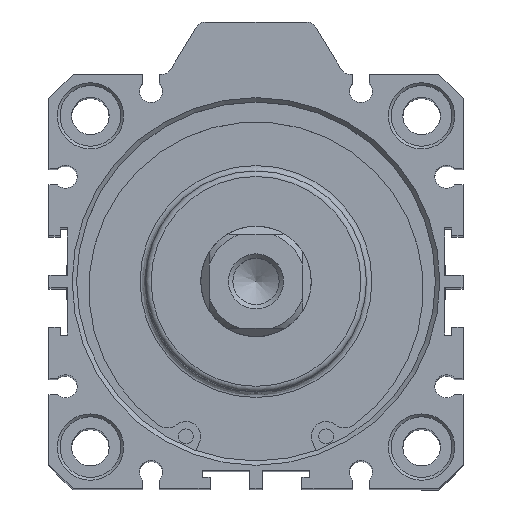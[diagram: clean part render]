
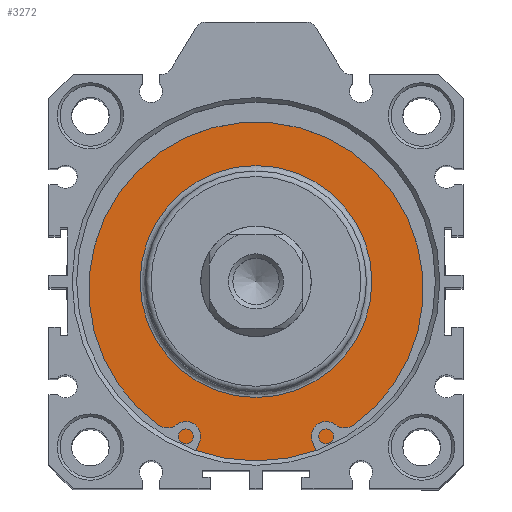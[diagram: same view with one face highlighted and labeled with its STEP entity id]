
A CAD part, top view. The second image highlights one B-rep face of the part: STEP entity #3272.
In plain terms, the highlighted planar face has unit normal (0, 0, 1).
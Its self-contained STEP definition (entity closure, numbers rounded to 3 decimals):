
#3221=CARTESIAN_POINT('',(0.359,19.684,152.3));
#3222=VERTEX_POINT('',#3221);
#3223=CARTESIAN_POINT('',(0.359,-1.316,152.3));
#3224=DIRECTION('',(0.0,0.0,1.0));
#3225=DIRECTION('',(0.0,-1.0,0.0));
#3226=AXIS2_PLACEMENT_3D('',#3223,#3224,#3225);
#3227=CIRCLE('',#3226,21.);
#3228=EDGE_CURVE('',#3222,#3222,#3227,.T.);
#3253=CARTESIAN_POINT('',(0.359,24.934,152.3));
#3254=DIRECTION('',(0.0,0.0,1.0));
#3255=DIRECTION('',(1.0,0.0,0.0));
#3256=AXIS2_PLACEMENT_3D('',#3253,#3254,#3255);
#3257=PLANE('',#3256);
#3258=CARTESIAN_POINT('',(0.359,31.184,152.3));
#3259=VERTEX_POINT('',#3258);
#3260=CARTESIAN_POINT('',(0.359,-1.316,152.3));
#3261=DIRECTION('',(0.0,0.0,-1.0));
#3262=DIRECTION('',(0.0,1.0,0.0));
#3263=AXIS2_PLACEMENT_3D('',#3260,#3261,#3262);
#3264=CIRCLE('',#3263,32.5);
#3265=EDGE_CURVE('',#3259,#3259,#3264,.T.);
#3266=ORIENTED_EDGE('',*,*,#3265,.F.);
#3267=EDGE_LOOP('',(#3266));
#3268=FACE_OUTER_BOUND('',#3267,.T.);
#3269=ORIENTED_EDGE('',*,*,#3228,.F.);
#3270=EDGE_LOOP('',(#3269));
#3271=FACE_BOUND('',#3270,.T.);
#3272=ADVANCED_FACE('',(#3268,#3271),#3257,.T.);
